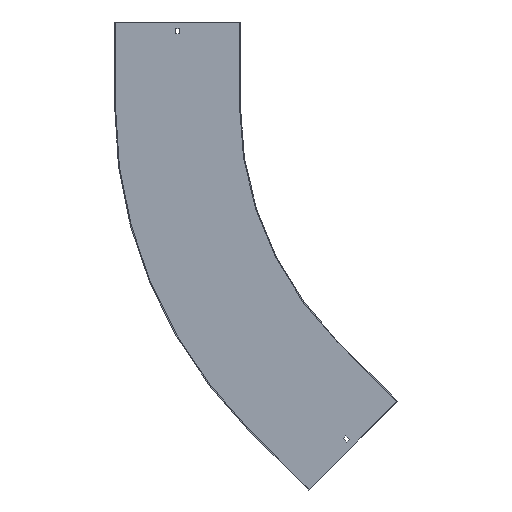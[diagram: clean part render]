
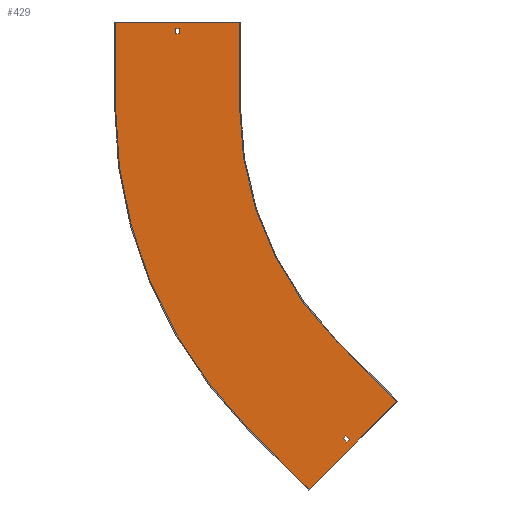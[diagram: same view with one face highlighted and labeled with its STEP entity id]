
A CAD part, front view. The second image highlights one B-rep face of the part: STEP entity #429.
In plain terms, the highlighted planar face has unit normal (0, -1, 0).
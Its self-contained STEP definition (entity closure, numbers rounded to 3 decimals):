
#3 = VECTOR ( 'NONE', #304, 1000. ) ;
#6 = EDGE_CURVE ( 'NONE', #192, #690, #606, .T. ) ;
#19 = FACE_OUTER_BOUND ( 'NONE', #601, .T. ) ;
#21 = DIRECTION ( 'NONE',  ( 0., 0., -1. ) ) ;
#23 = LINE ( 'NONE', #680, #74 ) ;
#28 = CARTESIAN_POINT ( 'NONE',  ( -811.5, -1.5, 150. ) ) ;
#34 = AXIS2_PLACEMENT_3D ( 'NONE', #461, #142, #268 ) ;
#35 = CARTESIAN_POINT ( 'NONE',  ( -401.46, -1.5, -583.893 ) ) ;
#39 = CARTESIAN_POINT ( 'NONE',  ( -703.25, -1.5, 138. ) ) ;
#42 = AXIS2_PLACEMENT_3D ( 'NONE', #750, #286, #543 ) ;
#49 = VERTEX_POINT ( 'NONE', #213 ) ;
#64 = EDGE_CURVE ( 'NONE', #813, #852, #320, .T. ) ;
#69 = CARTESIAN_POINT ( 'NONE',  ( -590., -1.5, 150. ) ) ;
#74 = VECTOR ( 'NONE', #216, 1000. ) ;
#98 = VERTEX_POINT ( 'NONE', #326 ) ;
#136 = EDGE_CURVE ( 'NONE', #49, #485, #705, .T. ) ;
#142 = DIRECTION ( 'NONE',  ( 0., -1., 0. ) ) ;
#163 = VERTEX_POINT ( 'NONE', #403 ) ;
#164 = LINE ( 'NONE', #28, #766 ) ;
#166 = EDGE_CURVE ( 'NONE', #622, #49, #478, .T. ) ;
#168 = EDGE_CURVE ( 'NONE', #648, #605, #406, .T. ) ;
#169 = ORIENTED_EDGE ( 'NONE', *, *, #455, .T. ) ;
#180 = CARTESIAN_POINT ( 'NONE',  ( -810., -1.5, 0. ) ) ;
#184 = ORIENTED_EDGE ( 'NONE', *, *, #503, .T. ) ;
#185 = CIRCLE ( 'NONE', #668, 810. ) ;
#192 = VERTEX_POINT ( 'NONE', #527 ) ;
#193 = VERTEX_POINT ( 'NONE', #676 ) ;
#210 = CARTESIAN_POINT ( 'NONE',  ( 0., -1.5, 129. ) ) ;
#213 = CARTESIAN_POINT ( 'NONE',  ( -395.096, -1.5, -590.257 ) ) ;
#214 = CARTESIAN_POINT ( 'NONE',  ( -810., -1.5, 0. ) ) ;
#216 = DIRECTION ( 'NONE',  ( -0.707, 0., -0.707 ) ) ;
#217 = VECTOR ( 'NONE', #542, 1000. ) ;
#222 = PLANE ( 'NONE',  #42 ) ;
#224 = CARTESIAN_POINT ( 'NONE',  ( -703.25, -1.5, 0. ) ) ;
#245 = VERTEX_POINT ( 'NONE', #530 ) ;
#265 = LINE ( 'NONE', #521, #393 ) ;
#268 = DIRECTION ( 'NONE',  ( 0., 0., -1. ) ) ;
#286 = DIRECTION ( 'NONE',  ( 0., -1., 0. ) ) ;
#289 = CARTESIAN_POINT ( 'NONE',  ( -810., -1.5, 150. ) ) ;
#290 = LINE ( 'NONE', #358, #3 ) ;
#301 = ORIENTED_EDGE ( 'NONE', *, *, #835, .F. ) ;
#304 = DIRECTION ( 'NONE',  ( 0., 0., -1. ) ) ;
#307 = CARTESIAN_POINT ( 'NONE',  ( -311.127, -1.5, -523.259 ) ) ;
#320 = LINE ( 'NONE', #180, #837 ) ;
#326 = CARTESIAN_POINT ( 'NONE',  ( -466.69, -1.5, -678.823 ) ) ;
#327 = VECTOR ( 'NONE', #795, 1000. ) ;
#343 = VECTOR ( 'NONE', #487, 1000. ) ;
#350 = VERTEX_POINT ( 'NONE', #792 ) ;
#356 = FACE_BOUND ( 'NONE', #560, .T. ) ;
#358 = CARTESIAN_POINT ( 'NONE',  ( -696.75, -1.5, 0. ) ) ;
#364 = EDGE_CURVE ( 'NONE', #193, #622, #704, .T. ) ;
#365 = CARTESIAN_POINT ( 'NONE',  ( 91.217, -1.5, -91.217 ) ) ;
#366 = EDGE_CURVE ( 'NONE', #690, #245, #369, .T. ) ;
#369 = CIRCLE ( 'NONE', #34, 590. ) ;
#373 = EDGE_CURVE ( 'NONE', #584, #98, #23, .T. ) ;
#384 = CARTESIAN_POINT ( 'NONE',  ( -399.692, -1.5, -594.854 ) ) ;
#393 = VECTOR ( 'NONE', #602, 1000. ) ;
#403 = CARTESIAN_POINT ( 'NONE',  ( -572.756, -1.5, -572.756 ) ) ;
#406 = LINE ( 'NONE', #752, #494 ) ;
#408 = VECTOR ( 'NONE', #522, 1000. ) ;
#409 = ORIENTED_EDGE ( 'NONE', *, *, #136, .F. ) ;
#418 = LINE ( 'NONE', #224, #343 ) ;
#420 = VECTOR ( 'NONE', #657, 1000. ) ;
#429 = ADVANCED_FACE ( 'NONE', ( #356, #19, #536 ), #222, .T. ) ;
#432 = VECTOR ( 'NONE', #790, 1000. ) ;
#434 = ORIENTED_EDGE ( 'NONE', *, *, #699, .F. ) ;
#438 = DIRECTION ( 'NONE',  ( 0.707, 0., -0.707 ) ) ;
#441 = ORIENTED_EDGE ( 'NONE', *, *, #850, .F. ) ;
#444 = EDGE_CURVE ( 'NONE', #852, #192, #164, .T. ) ;
#447 = ORIENTED_EDGE ( 'NONE', *, *, #64, .F. ) ;
#455 = EDGE_CURVE ( 'NONE', #505, #648, #418, .T. ) ;
#461 = CARTESIAN_POINT ( 'NONE',  ( 0., -1.5, 0. ) ) ;
#469 = DIRECTION ( 'NONE',  ( -1., 0., 0. ) ) ;
#478 = LINE ( 'NONE', #617, #408 ) ;
#485 = VERTEX_POINT ( 'NONE', #35 ) ;
#487 = DIRECTION ( 'NONE',  ( 0., 0., 1. ) ) ;
#489 = ORIENTED_EDGE ( 'NONE', *, *, #364, .F. ) ;
#490 = CARTESIAN_POINT ( 'NONE',  ( -703.25, -1.5, 129. ) ) ;
#493 = ORIENTED_EDGE ( 'NONE', *, *, #754, .F. ) ;
#494 = VECTOR ( 'NONE', #609, 1000. ) ;
#503 = EDGE_CURVE ( 'NONE', #605, #350, #290, .T. ) ;
#505 = VERTEX_POINT ( 'NONE', #490 ) ;
#509 = DIRECTION ( 'NONE',  ( 0., 0., 1. ) ) ;
#521 = CARTESIAN_POINT ( 'NONE',  ( -417.193, -1.5, -417.193 ) ) ;
#522 = DIRECTION ( 'NONE',  ( 0.707, 0., 0.707 ) ) ;
#527 = CARTESIAN_POINT ( 'NONE',  ( -590., -1.5, 150. ) ) ;
#529 = CARTESIAN_POINT ( 'NONE',  ( -466.69, -1.5, -678.823 ) ) ;
#530 = CARTESIAN_POINT ( 'NONE',  ( -417.193, -1.5, -417.193 ) ) ;
#535 = DIRECTION ( 'NONE',  ( 1., 0., 0. ) ) ;
#536 = FACE_BOUND ( 'NONE', #719, .T. ) ;
#539 = DIRECTION ( 'NONE',  ( 0., 1., 0. ) ) ;
#542 = DIRECTION ( 'NONE',  ( -0.707, 0., -0.707 ) ) ;
#543 = DIRECTION ( 'NONE',  ( 0., 0., -1. ) ) ;
#560 = EDGE_LOOP ( 'NONE', ( #409, #654, #489, #441 ) ) ;
#574 = VECTOR ( 'NONE', #438, 1000. ) ;
#584 = VERTEX_POINT ( 'NONE', #307 ) ;
#590 = LINE ( 'NONE', #529, #432 ) ;
#601 = EDGE_LOOP ( 'NONE', ( #700, #447, #301, #434, #670, #493, #643, #853 ) ) ;
#602 = DIRECTION ( 'NONE',  ( 0.707, 0., -0.707 ) ) ;
#605 = VERTEX_POINT ( 'NONE', #836 ) ;
#606 = LINE ( 'NONE', #69, #327 ) ;
#607 = CARTESIAN_POINT ( 'NONE',  ( 0., -1.5, 0. ) ) ;
#609 = DIRECTION ( 'NONE',  ( 1., 0., 0. ) ) ;
#614 = VECTOR ( 'NONE', #469, 1000. ) ;
#617 = CARTESIAN_POINT ( 'NONE',  ( 97.581, -1.5, -97.581 ) ) ;
#622 = VERTEX_POINT ( 'NONE', #384 ) ;
#643 = ORIENTED_EDGE ( 'NONE', *, *, #366, .F. ) ;
#644 = CARTESIAN_POINT ( 'NONE',  ( -590., -1.5, 0. ) ) ;
#648 = VERTEX_POINT ( 'NONE', #39 ) ;
#651 = CARTESIAN_POINT ( 'NONE',  ( -492.677, -1.5, -492.677 ) ) ;
#654 = ORIENTED_EDGE ( 'NONE', *, *, #166, .F. ) ;
#657 = DIRECTION ( 'NONE',  ( -0.707, 0., 0.707 ) ) ;
#668 = AXIS2_PLACEMENT_3D ( 'NONE', #607, #539, #21 ) ;
#670 = ORIENTED_EDGE ( 'NONE', *, *, #373, .F. ) ;
#676 = CARTESIAN_POINT ( 'NONE',  ( -406.056, -1.5, -588.49 ) ) ;
#680 = CARTESIAN_POINT ( 'NONE',  ( -310.066, -1.5, -522.198 ) ) ;
#690 = VERTEX_POINT ( 'NONE', #644 ) ;
#699 = EDGE_CURVE ( 'NONE', #98, #163, #590, .T. ) ;
#700 = ORIENTED_EDGE ( 'NONE', *, *, #444, .F. ) ;
#704 = LINE ( 'NONE', #844, #574 ) ;
#705 = LINE ( 'NONE', #651, #420 ) ;
#719 = EDGE_LOOP ( 'NONE', ( #863, #184, #748, #169 ) ) ;
#748 = ORIENTED_EDGE ( 'NONE', *, *, #767, .T. ) ;
#750 = CARTESIAN_POINT ( 'NONE',  ( 0., -1.5, 0. ) ) ;
#752 = CARTESIAN_POINT ( 'NONE',  ( 0., -1.5, 138. ) ) ;
#754 = EDGE_CURVE ( 'NONE', #245, #584, #265, .T. ) ;
#763 = LINE ( 'NONE', #365, #217 ) ;
#766 = VECTOR ( 'NONE', #535, 1000. ) ;
#767 = EDGE_CURVE ( 'NONE', #350, #505, #801, .T. ) ;
#790 = DIRECTION ( 'NONE',  ( -0.707, 0., 0.707 ) ) ;
#792 = CARTESIAN_POINT ( 'NONE',  ( -696.75, -1.5, 129. ) ) ;
#795 = DIRECTION ( 'NONE',  ( 0., 0., -1. ) ) ;
#801 = LINE ( 'NONE', #210, #614 ) ;
#813 = VERTEX_POINT ( 'NONE', #214 ) ;
#835 = EDGE_CURVE ( 'NONE', #163, #813, #185, .T. ) ;
#836 = CARTESIAN_POINT ( 'NONE',  ( -696.75, -1.5, 138. ) ) ;
#837 = VECTOR ( 'NONE', #509, 1000. ) ;
#844 = CARTESIAN_POINT ( 'NONE',  ( -497.273, -1.5, -497.273 ) ) ;
#850 = EDGE_CURVE ( 'NONE', #485, #193, #763, .T. ) ;
#852 = VERTEX_POINT ( 'NONE', #289 ) ;
#853 = ORIENTED_EDGE ( 'NONE', *, *, #6, .F. ) ;
#863 = ORIENTED_EDGE ( 'NONE', *, *, #168, .T. ) ;
